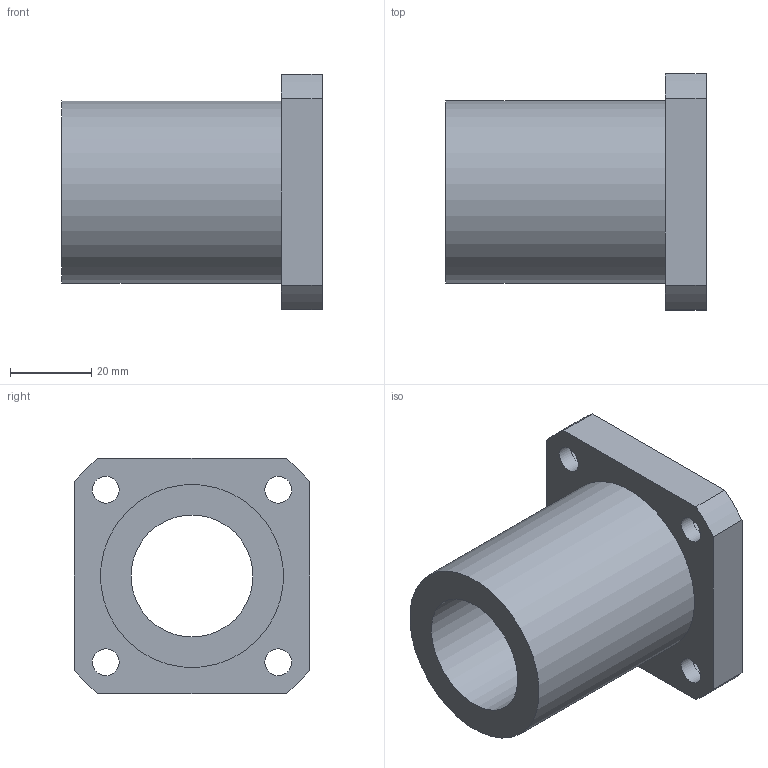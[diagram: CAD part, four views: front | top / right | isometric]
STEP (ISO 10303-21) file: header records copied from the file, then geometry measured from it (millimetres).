
FILE_DESCRIPTION(/* description */ (''),/* implementation_level */ '2;1');
FILE_NAME(/* name */ 'LMK30UU',/* time_stamp */ '2019-07-09T15:13:22+02:00',/* author */ ('VĂ©gh MĂˇtĂ©'),/* organization */ ('Bearing Kft'),/* preprocessor_version */ 'ST-DEVELOPER v16.7',/* originating_system */ 'DEX',/* authorisation */ $);
FILE_SCHEMA (('AUTOMOTIVE_DESIGN {1 0 10303 214 3 1 1}'));
Length unit declared in the file: millimetre
Products named in the file (1): LMK30UU
Bounding box: 64 x 58 x 58 mm (x, y, z)
Volume: 70755 mm3; surface area: 21950.3 mm2
Topology: 1 solids, 1 shells, 325 faces, 816 edges, 544 vertices
Faces by surface type: plane 248, bspline 61, cylinder 16
Full cylindrical faces by diameter (mm): 6.6 x4, 11 x4, 30 x1, 45 x1
Entity records: 12771 total; most frequent: CARTESIAN_POINT 5344, ORIENTED_EDGE 1606, DIRECTION 1243, EDGE_CURVE 803, LINE 649, VECTOR 649, VERTEX_POINT 544, EDGE_LOOP 399
